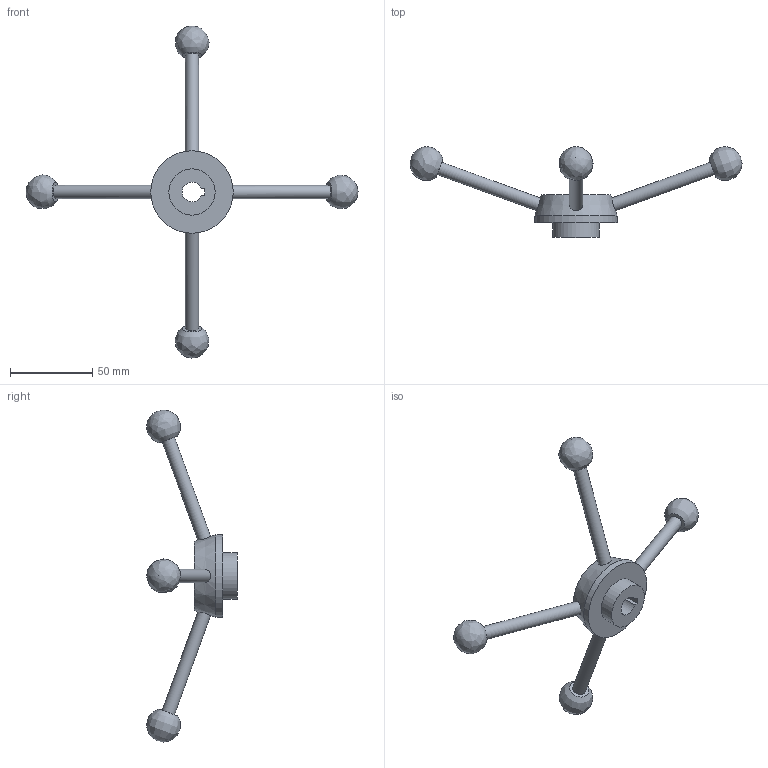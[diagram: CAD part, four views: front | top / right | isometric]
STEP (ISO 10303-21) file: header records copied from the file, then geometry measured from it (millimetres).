
FILE_DESCRIPTION( ( 'STEP AP203' ), '1' );
FILE_NAME( 'C:/Temp/Ganter_Step_05_03_2020/data/2_1/gn_213/gn_213_k/Turret lever GN 213-50-K12.stp', '2020-03-05T11:51:06', ( 'License CC BY-ND 4.0' ), ( 'CADENAS' ), ' ', 'PARTsolutions', ' ' );
FILE_SCHEMA( ( 'CONFIG_CONTROL_DESIGN' ) );
Length unit declared in the file: millimetre
Products named in the file (1): _Turret lever GN 213-50-K12
Bounding box: 201.3 x 55 x 201.3 mm (x, y, z)
Volume: 62445.7 mm3; surface area: 18861.1 mm2
Topology: 1 solids, 1 shells, 22 faces, 50 edges, 34 vertices
Faces by surface type: plane 10, cylinder 7, bspline 4, cone 1
Full cylindrical faces by diameter (mm): 8 x4, 28 x1, 50 x1
Entity records: 892 total; most frequent: CARTESIAN_POINT 449, DIRECTION 78, ORIENTED_EDGE 58, EDGE_LOOP 40, AXIS2_PLACEMENT_3D 34, VERTEX_POINT 29, EDGE_CURVE 29, FACE_OUTER_BOUND 28
